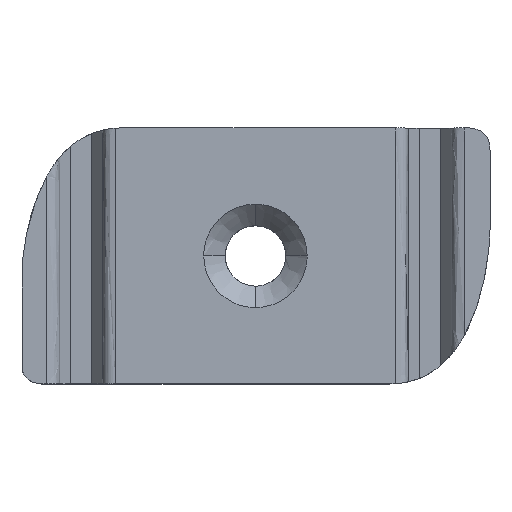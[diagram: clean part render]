
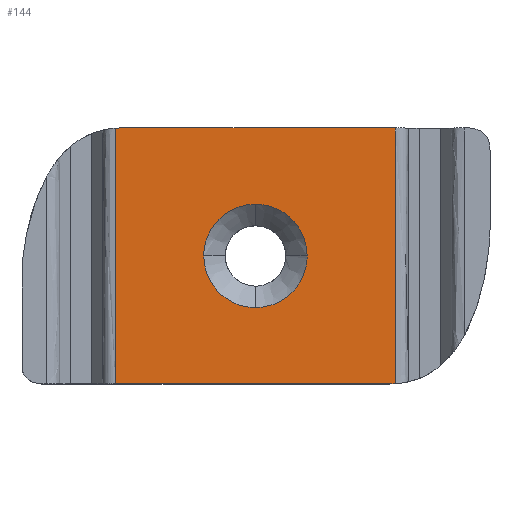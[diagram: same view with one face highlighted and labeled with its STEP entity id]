
A CAD part, top view. The second image highlights one B-rep face of the part: STEP entity #144.
In plain terms, the highlighted planar face has unit normal (0, 0, 1).
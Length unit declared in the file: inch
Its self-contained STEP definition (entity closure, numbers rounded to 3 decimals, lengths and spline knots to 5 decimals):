
#144=ADVANCED_FACE('',(#279,#280),#281,.T.);
#279=FACE_OUTER_BOUND('',#1968,.T.);
#280=FACE_BOUND('',#1969,.T.);
#281=PLANE('',#1970);
#1968=EDGE_LOOP('',(#2227,#2228,#2229,#2230,#2231,#2232));
#1969=EDGE_LOOP('',(#2233,#2234,#2235,#2236));
#1970=AXIS2_PLACEMENT_3D('',#2237,#2238,#2239);
#2227=ORIENTED_EDGE('',*,*,#2374,.T.);
#2228=ORIENTED_EDGE('',*,*,#2396,.T.);
#2229=ORIENTED_EDGE('',*,*,#2424,.T.);
#2230=ORIENTED_EDGE('',*,*,#2315,.T.);
#2231=ORIENTED_EDGE('',*,*,#2380,.F.);
#2232=ORIENTED_EDGE('',*,*,#2425,.T.);
#2233=ORIENTED_EDGE('',*,*,#2419,.F.);
#2234=ORIENTED_EDGE('',*,*,#2402,.F.);
#2235=ORIENTED_EDGE('',*,*,#2411,.F.);
#2236=ORIENTED_EDGE('',*,*,#2383,.F.);
#2237=CARTESIAN_POINT('',(0.68438,0.,0.));
#2238=DIRECTION('',(0.0,0.0,1.0));
#2239=DIRECTION('',(1.0,0.0,0.0));
#2315=EDGE_CURVE('',#2471,#2472,#2473,.T.);
#2374=EDGE_CURVE('',#2565,#2563,#2566,.T.);
#2380=EDGE_CURVE('',#2572,#2472,#2574,.T.);
#2383=EDGE_CURVE('',#2576,#2578,#2579,.T.);
#2396=EDGE_CURVE('',#2563,#2594,#2596,.T.);
#2402=EDGE_CURVE('',#2602,#2604,#2605,.T.);
#2411=EDGE_CURVE('',#2578,#2602,#2615,.T.);
#2419=EDGE_CURVE('',#2604,#2576,#2623,.T.);
#2424=EDGE_CURVE('',#2594,#2471,#2628,.T.);
#2425=EDGE_CURVE('',#2572,#2565,#2629,.T.);
#2471=VERTEX_POINT('',#2727);
#2472=VERTEX_POINT('',#2728);
#2473=B_SPLINE_CURVE_WITH_KNOTS('',3,(#2729,#2730,#2731,#2732),.UNSPECIFIED.,.F.,.F.,(4,4),(0.0,0.0685),.UNSPECIFIED.);
#2563=VERTEX_POINT('',#3081);
#2565=VERTEX_POINT('',#3094);
#2566=B_SPLINE_CURVE_WITH_KNOTS('',3,(#3095,#3096,#3097,#3098),.UNSPECIFIED.,.F.,.F.,(4,4),(0.0,0.0685),.UNSPECIFIED.);
#2572=VERTEX_POINT('',#3107);
#2574=LINE('',#3112,#3113);
#2576=VERTEX_POINT('',#3115);
#2578=VERTEX_POINT('',#3118);
#2579=B_SPLINE_CURVE_WITH_KNOTS('',3,(#3119,#3120,#3121,#3122,#3123,#3124,#3125,#3126,#3127,#3128,#3129,#3130),.UNSPECIFIED.,.F.,.F.,(4,2,2,2,2,4),(0.0,0.05791,0.11551,0.17471,0.20536,0.23679),.UNSPECIFIED.);
#2594=VERTEX_POINT('',#3152);
#2596=LINE('',#3157,#3158);
#2602=VERTEX_POINT('',#3176);
#2604=VERTEX_POINT('',#3179);
#2605=B_SPLINE_CURVE_WITH_KNOTS('',3,(#3180,#3181,#3182,#3183,#3184,#3185,#3186,#3187,#3188,#3189,#3190,#3191),.UNSPECIFIED.,.F.,.F.,(4,2,2,2,2,4),(0.0,0.03144,0.06209,0.12128,0.17888,0.23679),.UNSPECIFIED.);
#2615=B_SPLINE_CURVE_WITH_KNOTS('',3,(#3206,#3207,#3208,#3209,#3210,#3211,#3212,#3213,#3214,#3215,#3216,#3217),.UNSPECIFIED.,.F.,.F.,(4,2,2,2,2,4),(0.0,0.03144,0.06209,0.12129,0.17889,0.23679),.UNSPECIFIED.);
#2623=B_SPLINE_CURVE_WITH_KNOTS('',3,(#3238,#3239,#3240,#3241,#3242,#3243,#3244,#3245,#3246,#3247,#3248,#3249,#3250,#3251),.UNSPECIFIED.,.F.,.F.,(4,2,2,2,2,2,4),(0.0,0.03144,0.06209,0.1184,0.12129,0.17889,0.23679),.UNSPECIFIED.);
#2628=LINE('',#3257,#3258);
#2629=LINE('',#3259,#3260);
#2727=CARTESIAN_POINT('',(0.28634,0.75,0.));
#2728=CARTESIAN_POINT('',(0.27409,0.74948,0.));
#2729=CARTESIAN_POINT('',(0.29139,0.75005,0.));
#2730=CARTESIAN_POINT('',(0.26856,0.75005,0.));
#2731=CARTESIAN_POINT('',(0.24601,0.74718,0.));
#2732=CARTESIAN_POINT('',(0.22409,0.74079,0.));
#3081=CARTESIAN_POINT('',(1.09467,0.00056,0.));
#3094=CARTESIAN_POINT('',(1.07736,0.,0.));
#3095=CARTESIAN_POINT('',(1.07736,0.,0.));
#3096=CARTESIAN_POINT('',(1.1002,0.,0.));
#3097=CARTESIAN_POINT('',(1.12274,0.00287,0.));
#3098=CARTESIAN_POINT('',(1.14467,0.00926,0.));
#3107=CARTESIAN_POINT('',(0.27409,0.,0.));
#3112=CARTESIAN_POINT('',(0.27409,0.,0.));
#3113=VECTOR('',#3309,1.);
#3115=CARTESIAN_POINT('',(0.83588,0.37505,0.));
#3118=CARTESIAN_POINT('',(0.68438,0.52656,0.));
#3119=CARTESIAN_POINT('',(0.83588,0.37505,0.));
#3120=CARTESIAN_POINT('',(0.83588,0.39436,0.));
#3121=CARTESIAN_POINT('',(0.83208,0.41401,0.));
#3122=CARTESIAN_POINT('',(0.81763,0.4497,0.));
#3123=CARTESIAN_POINT('',(0.80678,0.46638,0.));
#3124=CARTESIAN_POINT('',(0.77976,0.49441,0.));
#3125=CARTESIAN_POINT('',(0.76294,0.50611,0.));
#3126=CARTESIAN_POINT('',(0.73548,0.51807,0.));
#3127=CARTESIAN_POINT('',(0.72565,0.52121,0.));
#3128=CARTESIAN_POINT('',(0.70539,0.52547,0.));
#3129=CARTESIAN_POINT('',(0.69486,0.52656,0.));
#3130=CARTESIAN_POINT('',(0.68438,0.52656,0.));
#3152=CARTESIAN_POINT('',(1.09467,0.75,0.));
#3157=CARTESIAN_POINT('',(1.09467,0.,0.));
#3158=VECTOR('',#3319,1.);
#3176=CARTESIAN_POINT('',(0.53288,0.37505,0.));
#3179=CARTESIAN_POINT('',(0.68438,0.22355,0.));
#3180=CARTESIAN_POINT('',(0.53288,0.37505,0.));
#3181=CARTESIAN_POINT('',(0.53288,0.36457,0.));
#3182=CARTESIAN_POINT('',(0.53396,0.35404,0.));
#3183=CARTESIAN_POINT('',(0.53822,0.33378,0.));
#3184=CARTESIAN_POINT('',(0.54136,0.32395,0.));
#3185=CARTESIAN_POINT('',(0.55332,0.29649,0.));
#3186=CARTESIAN_POINT('',(0.56503,0.27968,0.));
#3187=CARTESIAN_POINT('',(0.59305,0.25265,0.));
#3188=CARTESIAN_POINT('',(0.60973,0.2418,0.));
#3189=CARTESIAN_POINT('',(0.64542,0.22735,0.));
#3190=CARTESIAN_POINT('',(0.66507,0.22355,0.));
#3191=CARTESIAN_POINT('',(0.68438,0.22355,0.));
#3206=CARTESIAN_POINT('',(0.68438,0.52656,0.));
#3207=CARTESIAN_POINT('',(0.6739,0.52656,0.));
#3208=CARTESIAN_POINT('',(0.66336,0.52547,0.));
#3209=CARTESIAN_POINT('',(0.64311,0.52121,0.));
#3210=CARTESIAN_POINT('',(0.63327,0.51807,0.));
#3211=CARTESIAN_POINT('',(0.60582,0.50611,0.));
#3212=CARTESIAN_POINT('',(0.589,0.49441,0.));
#3213=CARTESIAN_POINT('',(0.56198,0.46638,0.));
#3214=CARTESIAN_POINT('',(0.55112,0.4497,0.));
#3215=CARTESIAN_POINT('',(0.53667,0.41401,0.));
#3216=CARTESIAN_POINT('',(0.53288,0.39436,0.));
#3217=CARTESIAN_POINT('',(0.53288,0.37505,0.));
#3238=CARTESIAN_POINT('',(0.68438,0.22355,0.));
#3239=CARTESIAN_POINT('',(0.69486,0.22355,0.));
#3240=CARTESIAN_POINT('',(0.70539,0.22464,0.));
#3241=CARTESIAN_POINT('',(0.72565,0.2289,0.));
#3242=CARTESIAN_POINT('',(0.73548,0.23204,0.));
#3243=CARTESIAN_POINT('',(0.76205,0.24362,0.));
#3244=CARTESIAN_POINT('',(0.77812,0.25456,0.));
#3245=CARTESIAN_POINT('',(0.79211,0.26853,0.));
#3246=CARTESIAN_POINT('',(0.79278,0.26922,0.));
#3247=CARTESIAN_POINT('',(0.80678,0.28373,0.));
#3248=CARTESIAN_POINT('',(0.81763,0.30042,0.));
#3249=CARTESIAN_POINT('',(0.83208,0.3361,0.));
#3250=CARTESIAN_POINT('',(0.83588,0.35575,0.));
#3251=CARTESIAN_POINT('',(0.83588,0.37505,0.));
#3257=CARTESIAN_POINT('',(0.27409,0.75,0.));
#3258=VECTOR('',#3328,1.0);
#3259=CARTESIAN_POINT('',(0.27409,0.,0.));
#3260=VECTOR('',#3329,1.0);
#3309=DIRECTION('',(0.0,1.0,0.0));
#3319=DIRECTION('',(0.0,1.0,0.0));
#3328=DIRECTION('',(-1.0,-0.0,0.0));
#3329=DIRECTION('',(1.0,0.0,0.0));
